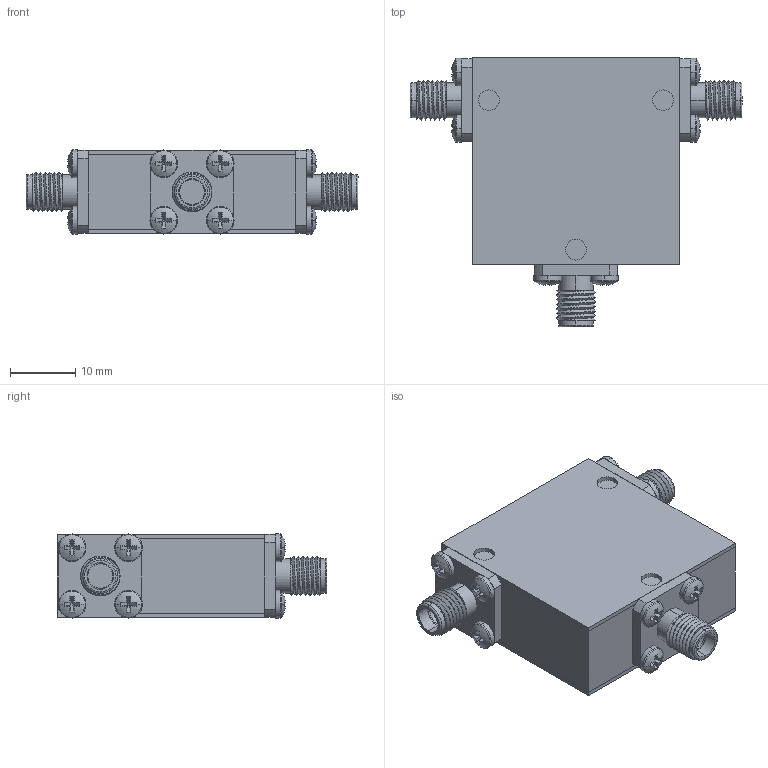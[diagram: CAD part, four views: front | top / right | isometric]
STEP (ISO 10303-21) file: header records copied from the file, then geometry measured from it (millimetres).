
FILE_DESCRIPTION (( 'STEP AP214' ), '1' );
FILE_NAME ('D3C3090 1.25x1.25x0.5 FFF.step', '2021-12-01T20:55:32', ( '' ), ( '' ), 'SwSTEP 2.0', 'SolidWorks 2016', '' );
FILE_SCHEMA (( 'AUTOMOTIVE_DESIGN' ));
Length unit declared in the file: inch
Products named in the file (5): Delta SMA-Female 0.500 flange Threaded; D3I3090 1.25x1.225x0.45; pan cross head_ai_CR-PHMS 0.086-56x0.125x0.125-N; D3I3090 1.25x1.25x0.5; D3C3090 1.25x1.25x0.5 FFF
Assembly tree (17 placements, depth 2):
  D3C3090 1.25x1.25x0.5 FFF
    D3I3090 1.25x1.225x0.45
    D3I3090 1.25x1.25x0.5
    pan cross head_ai_CR-PHMS 0.086-56x0.125x0.125-N  x12
    Delta SMA-Female 0.500 flange Threaded  x3
Bounding box: 50.8 x 41.27 x 12.88 mm (x, y, z)
Volume: 13980.7 mm3; surface area: 11117.8 mm2
Topology: 17 solids, 17 shells, 421 faces, 957 edges, 591 vertices
Faces by surface type: plane 232, cylinder 126, torus 30, sphere 24, bspline 9
Entity records: 3729 total; most frequent: CARTESIAN_POINT 1205, DIRECTION 527, ORIENTED_EDGE 434, EDGE_CURVE 217, AXIS2_PLACEMENT_3D 211, VERTEX_POINT 139, EDGE_LOOP 116, VECTOR 105
